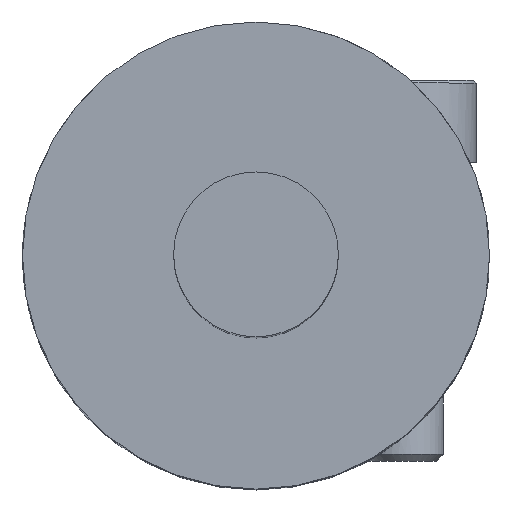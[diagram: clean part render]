
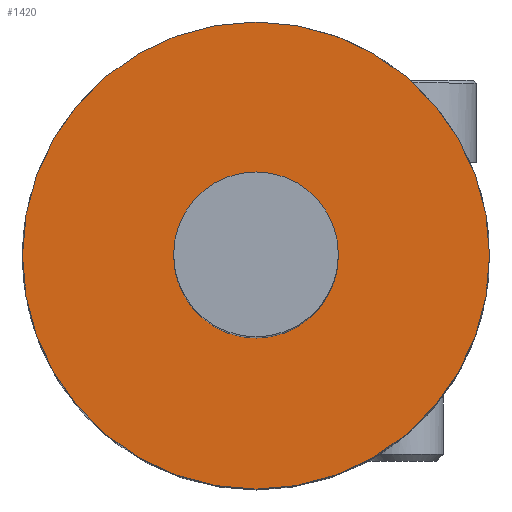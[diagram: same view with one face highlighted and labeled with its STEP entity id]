
A CAD part, top view. The second image highlights one B-rep face of the part: STEP entity #1420.
In plain terms, the highlighted planar face has unit normal (0, 0, 1).
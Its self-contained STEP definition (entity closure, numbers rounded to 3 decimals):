
#545=CARTESIAN_POINT('',(0.,0.,0.));
#546=DIRECTION('',(0.,0.,1.));
#547=DIRECTION('',(0.,1.,0.));
#548=AXIS2_PLACEMENT_3D('',#545,#546,#547);
#550=CARTESIAN_POINT('',(0.,0.,0.));
#551=DIRECTION('',(0.,0.,-1.));
#552=DIRECTION('',(0.,1.,0.));
#553=AXIS2_PLACEMENT_3D('',#550,#551,#552);
#555=CARTESIAN_POINT('',(0.,0.,0.));
#556=DIRECTION('',(0.,0.,-1.));
#557=DIRECTION('',(0.,1.,0.));
#558=AXIS2_PLACEMENT_3D('',#555,#556,#557);
#560=CARTESIAN_POINT('',(0.,0.,0.));
#561=DIRECTION('',(0.,0.,-1.));
#562=DIRECTION('',(0.,-1.,0.));
#563=AXIS2_PLACEMENT_3D('',#560,#561,#562);
#820=CARTESIAN_POINT('',(0.,8.5,0.));
#822=VERTEX_POINT('',#820);
#823=CARTESIAN_POINT('',(0.,-8.5,0.));
#824=VERTEX_POINT('',#823);
#825=CARTESIAN_POINT('',(0.,3.,0.));
#826=CARTESIAN_POINT('',(0.,-3.,0.));
#827=VERTEX_POINT('',#825);
#828=VERTEX_POINT('',#826);
#1405=CARTESIAN_POINT('',(0.,0.,0.));
#1406=DIRECTION('',(0.,0.,-1.));
#1407=DIRECTION('',(0.,-1.,0.));
#1408=AXIS2_PLACEMENT_3D('',#1405,#1406,#1407);
#1409=PLANE('',#1408);
#1410=ORIENTED_EDGE('',*,*,#1150,.F.);
#1411=ORIENTED_EDGE('',*,*,#1058,.T.);
#1412=EDGE_LOOP('',(#1410,#1411));
#1413=FACE_OUTER_BOUND('',#1412,.F.);
#1415=ORIENTED_EDGE('',*,*,#1414,.F.);
#1417=ORIENTED_EDGE('',*,*,#1416,.F.);
#1418=EDGE_LOOP('',(#1415,#1417));
#1419=FACE_BOUND('',#1418,.F.);
#1420=ADVANCED_FACE('',(#1413,#1419),#1409,.F.);
#549=CIRCLE('',#548,8.5);
#554=CIRCLE('',#553,8.5);
#559=CIRCLE('',#558,3.);
#564=CIRCLE('',#563,3.);
#1058=EDGE_CURVE('',#822,#824,#554,.T.);
#1150=EDGE_CURVE('',#822,#824,#549,.T.);
#1414=EDGE_CURVE('',#827,#828,#559,.T.);
#1416=EDGE_CURVE('',#828,#827,#564,.T.);
